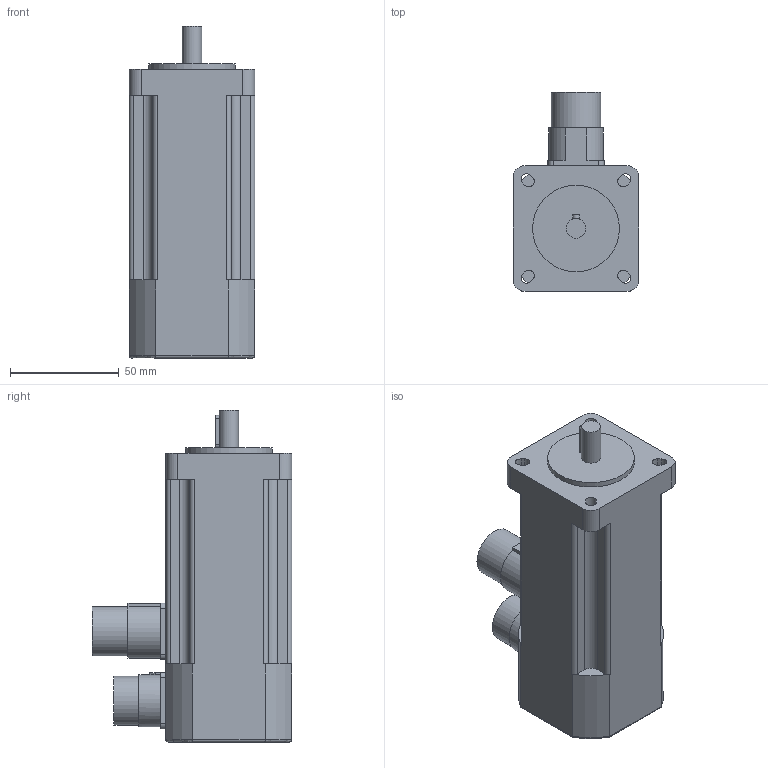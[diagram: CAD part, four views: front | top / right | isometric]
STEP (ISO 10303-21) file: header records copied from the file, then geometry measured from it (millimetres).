
FILE_DESCRIPTION(/* description */ (''),/* implementation_level */ '2;1');
FILE_NAME(/* name */ '\\Lafnas01\disegni\Archivi Lafert\3D\CAD 3D\MODELLI\Assiemi clienti\Serad\Modelli 3D Serad\B28I\Resolver\Res Without Brake\B28D4Ixx4A050033.ipt.stp',/* time_stamp */ '2015-09-07T10:48:16+02:00',/* author */ ('Pastrello Ylenia'),/* organization */ (''),/* preprocessor_version */ 'ST-DEVELOPER v15.6',/* originating_system */ 'Autodesk Inventor 2015',/* authorisation */ '');
FILE_SCHEMA (('AUTOMOTIVE_DESIGN { 1 0 10303 214 3 1 1 }'));
Length unit declared in the file: millimetre
Products named in the file (1): B28D4Ixx4A050033
Bounding box: 58 x 92 x 153 mm (x, y, z)
Volume: 426844.4 mm3; surface area: 42006.1 mm2
Topology: 1 solids, 1 shells, 133 faces, 356 edges, 231 vertices
Faces by surface type: plane 71, cylinder 58, torus 4
Full cylindrical faces by diameter (mm): 9 x1, 22.7 x2, 24 x1, 40 x1
Entity records: 4247 total; most frequent: CARTESIAN_POINT 847, DIRECTION 719, ORIENTED_EDGE 696, EDGE_CURVE 347, AXIS2_PLACEMENT_3D 250, VERTEX_POINT 228, LINE 219, VECTOR 219
